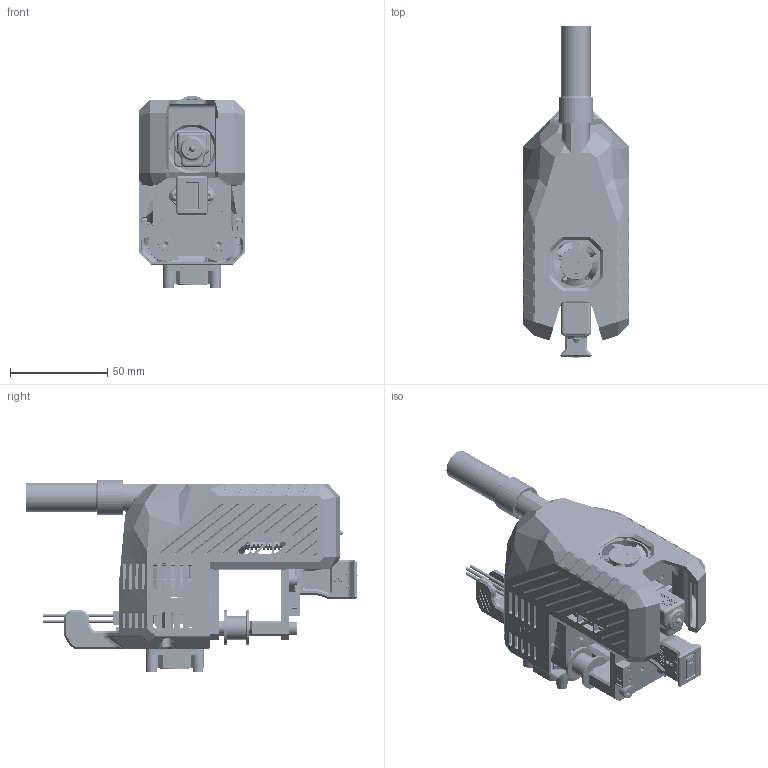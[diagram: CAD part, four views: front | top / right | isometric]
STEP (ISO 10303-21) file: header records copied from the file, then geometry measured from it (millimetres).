
FILE_DESCRIPTION (( 'STEP AP214' ), '1' );
FILE_NAME ('Phoenix_ToolHead.STEP', '2025-06-09T05:56:09', ( '' ), ( '' ), 'SwSTEP 2.0', 'SolidWorks 2021', '' );
FILE_SCHEMA (( 'AUTOMOTIVE_DESIGN' ));
Length unit declared in the file: millimetre
Products named in the file (204): FU_0805; 畢え; Microswitch; 3D_PCB6_2022-04-06; socket button head screw_iso_ISO 7380 - M3 x 6 --- 6N; ToolHead_Front_Shroud_00; Board; D3; LED1; Klicky_Probe_00; 0603; Filament_Leveler_HGX_00; HDR2.54-1P; QFN28-5X5_呿极; User_Library-GeyerElectronics_KX7; D2; Reduction Gear; GT2_Timing_Idler_Pulley_01; Body_2; D4; JP1; U2.step; ADXL345BCCZ; 111; P4; C27; CSW1.27-SMD-4P; NR3015; P9; Fan 3010; Vextruder_02; SOD-123; K1; Silicone_Tube_12mm; SMA; E3D Volcano nozzle (1.75 all sizes)_0.4MM; CM_D(6.3X7.7); SOLID.step; radial ball bearing_68_iso_ISO 15 RBB - 023 - 8,SI,NC,8_68; FILTER-SMD_4P-L2.0-W1.2-TR.step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
Assembly tree (330 placements, depth 8):
  Phoenix_ToolHead
    X_carriage_aluminium_40å40 æ¥«ì­ë©
    Dragon hotend
      Dragon_heatsink
      Dragon_Heatbreak
      DragonAceHeatblock
        DragonAceHeatblock
        D2.3L7.5-Column  x4
        TL-dragon-Sock
      E3D Volcano nozzle (1.75 all sizes)_0.4MM
      socket head cap screw 4762_din_ISO 4762 M1.4 x 10 --- 10N  x2
      Äèñòàíöèîííàÿ ïðîêëàäêà äëÿ ãîðëà_00
    Vextruder_02
      F1-B-M3-Heatfit  x6
      F1-B-M3-Heatfit_01
      socket button head screw_iso_ISO 7380 - M3 x 6 - 6N
      LDO-36STH20-1004AHG
      Filament_Leveler_HGX_00
      M3x20 shaft
      Extrusion Gear  x2
        Metal
        7804K124_Stainless Steel Ball Bearing
        Plastic Spur Gear
      Reduction Gear
        Big Gear Plastic
        Metal Shaft
        7804K124_Stainless Steel Ball Bearing  x2
      Pin
      3x16 Pin
      socket head thin cap screw_din_DIN 7984 - M3 x 6 --- 4.5N
      socket head thin cap screw_din_DIN 7984 - M3 x 14 --- 12.5N
      Stepper_module_HGX2_00
      Main_module_HGX2_00
      socket button head screw_iso_ISO 7380 - M3 x 10 --- 10N
      Microswitch
    Support_Module_00
    BIGTREETECH EBB36 CAN V1.1_00
      Board
      R_0402
      X1
        User_Library-GeyerElectronics_KX7
        6306246592
          Extruded
      U8
        SOT-23-5
      U7
        SOP8
          SOP8_呿极
          綠僅1.8_腔竘褐  x8
      U6
        SOT-23-5
      U5
        SSOP20
          SSOP20_呿极
          綠僅1.6_竘褐  x20
      U4
        SOT23-6
          SOT23-5and6_竘褐  x6
          SOT23-6
      U2
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Bounding box: 55 x 170.8 x 99.03 mm (x, y, z)
Volume: 216597.3 mm3; surface area: 184042.5 mm2
Topology: 448 solids, 448 shells, 19966 faces, 51379 edges, 32560 vertices
Faces by surface type: plane 10521, bspline 4635, cylinder 4033, cone 519, torus 212, sphere 46
Full cylindrical faces by diameter (mm): 0.15 x1, 0.25 x1, 0.3 x13, 0.4 x3, 0.5 x3, 0.56 x1, 0.6 x16, 0.7 x1, 0.8 x15, 0.85 x2, 0.9 x24, 1 x2, 1.195 x4, 1.2 x4, 1.3 x7, 1.4 x16, 1.5 x2, 1.572 x1, 1.6 x14, 1.624 x2, 1.7 x12, 1.8 x8, 1.876 x1, 2 x69, 2.06 x2, 2.1 x3, 2.26 x2, 2.3 x10, 2.35 x4, 2.5 x24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
Entity records: 858640 total; most frequent: CARTESIAN_POINT 432809, ORIENTED_EDGE 70904, DIRECTION 57219, EDGE_CURVE 35452, VERTEX_POINT 23203, VECTOR 23065, LINE 23065, AXIS2_PLACEMENT_3D 17077
